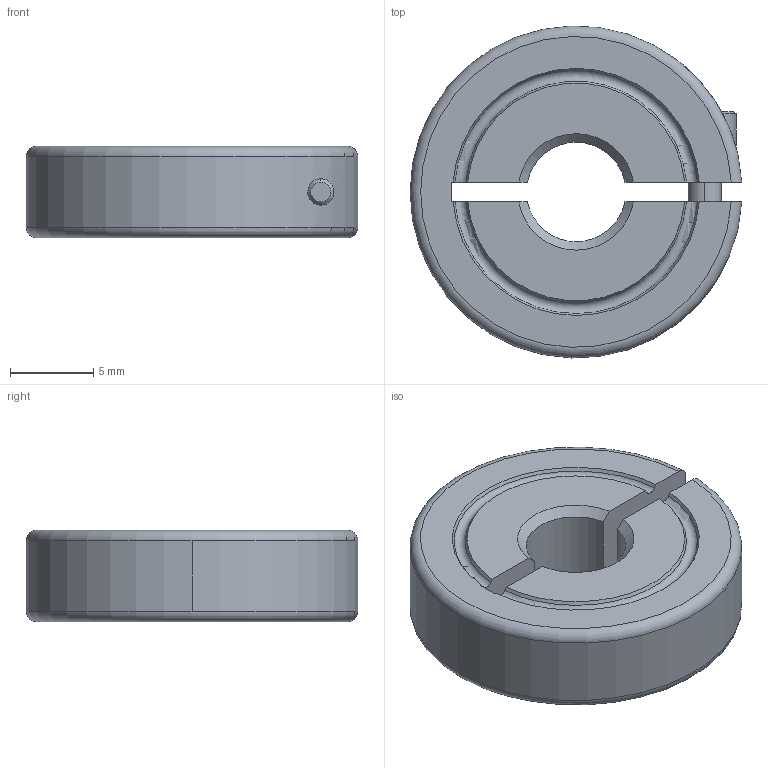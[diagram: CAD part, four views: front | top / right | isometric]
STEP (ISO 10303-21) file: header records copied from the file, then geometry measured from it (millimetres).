
FILE_DESCRIPTION (( 'STEP AP214' ), '1' );
FILE_NAME ('Ruland_ENCL20-6MM-A.step', '2018-10-02T19:12:20', ( '' ), ( '' ), 'SwSTEP 2.0', 'SolidWorks 2018', '' );
FILE_SCHEMA (( 'AUTOMOTIVE_DESIGN' ));
Length unit declared in the file: inch
Products named in the file (3): CAP SCREWS_CFM2_6; ENCLxx-xx-x_ENCL20-6MM-A; Ruland_ENCL20-6MM-A
Assembly tree (2 placements, depth 2):
  Ruland_ENCL20-6MM-A
    ENCLxx-xx-x_ENCL20-6MM-A
    CAP SCREWS_CFM2_6
Bounding box: 19.98 x 19.99 x 5.5 mm (x, y, z)
Volume: 1449.6 mm3; surface area: 1223.6 mm2
Topology: 2 solids, 2 shells, 53 faces, 132 edges, 86 vertices
Faces by surface type: plane 20, cylinder 15, cone 12, torus 6
Entity records: 1826 total; most frequent: CARTESIAN_POINT 427, DIRECTION 274, ORIENTED_EDGE 264, EDGE_CURVE 132, AXIS2_PLACEMENT_3D 105, VERTEX_POINT 86, LINE 64, VECTOR 64
